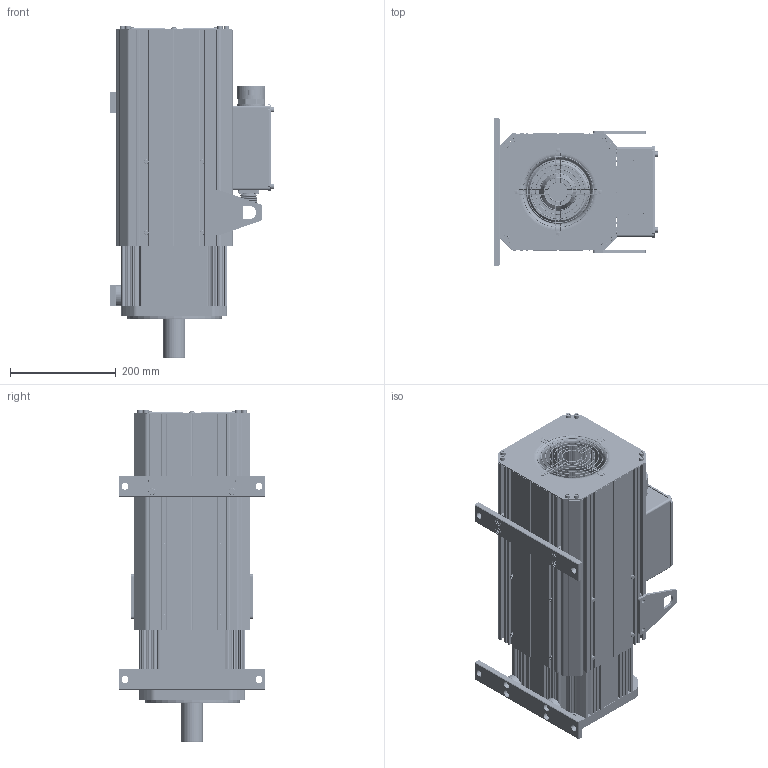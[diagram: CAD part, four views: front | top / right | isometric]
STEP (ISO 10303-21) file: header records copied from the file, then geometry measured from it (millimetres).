
FILE_DESCRIPTION((''),'2;1');
FILE_NAME('K111F15C18P_18KW_ASM','2023-05-23T14:32:40',('admin'),(''),'CREO PARAMETRIC BY PTC INC, 2019080','CREO PARAMETRIC BY PTC INC, 2019080','');
FILE_SCHEMA(('CONFIG_CONTROL_DESIGN'));
Products named in the file (45): QDG_10600-00001; ZZ_12400-04005_18KW; ZC_30400-00001; ZC_30400-01002; ZCZDQ_11200-00001; ZZZJ_80500-04005_18KW_ASM; O-RING_50000-01002; JK_K111_10200-39040; DZZJ_80200-00083_15KW_ASM; FDB_K111_12900-66067; DEGDT_11500-02003; DE_11300-00001; O-RING_50000-02003; YXHQ_20300-00001; O-RING_50000-03004; JXHT_41000-09010; JXHG_41000-00001; JXHGDK_11600-04005; M6X10; XJD_50800-11012; AD13_1; AD42P5_3; MFD_YD28-15P; HKXZ_YD28-15P_40100-00001; PDLD_4X12; JXHZJ_81100-00002_ASM; M5X25; HDG_21200-00001; M8X30; HGB_21600-00001; M4X10; FJ_40000-03004; M4X12; FJFHB_11100-02003; FHW_30500-00001; PDQ_4; MD_4; FJFHBZZ_ASM; QZCJ_10400-15016; DK_12800-32033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
Assembly tree (114 placements, depth 3):
  K111F15C18P_18KW_ASM
    QDG_10600-00001
    ZZZJ_80500-04005_18KW_ASM
      ZZ_12400-04005_18KW
      ZC_30400-00001
      ZC_30400-01002
      ZCZDQ_11200-00001
    O-RING_50000-01002
    DZZJ_80200-00083_15KW_ASM
      JK_K111_10200-39040
    FDB_K111_12900-66067
    DEGDT_11500-02003  x2
    DE_11300-00001  x2
    O-RING_50000-02003
    YXHQ_20300-00001
    O-RING_50000-03004
    JXHZJ_81100-00002_ASM
      JXHT_41000-09010
      JXHG_41000-00001
      JXHGDK_11600-04005  x4
      M6X10  x8
      XJD_50800-11012
      AD13_1
      AD42P5_3
      MFD_YD28-15P
      HKXZ_YD28-15P_40100-00001
      PDLD_4X12  x4
    M5X25  x16
    HDG_21200-00001
    M8X30  x16
    HGB_21600-00001
    M4X10  x4
    FJ_40000-03004
    M4X12  x4
    FJFHBZZ_ASM
      FJFHB_11100-02003
      FHW_30500-00001
      PDQ_4  x4
      MD_4  x4
    M6X10  x8
    ZCJZJ_22300-00007_15KW_ASM
      QZCJ_10400-15016
      DK_12800-32033  x2
      HZCJ_10400-16017
      GDK_11600-09010  x2
      M8X16  x4
Bounding box: 312.35 x 278 x 629 mm (x, y, z)
Volume: 8594861.5 mm3; surface area: 3101011.1 mm2
Topology: 123 solids, 127 shells, 6025 faces, 15826 edges, 10239 vertices
Faces by surface type: plane 2899, cylinder 2331, cone 350, torus 267, bspline 160, sphere 18
Entity records: 164419 total; most frequent: CARTESIAN_POINT 39869, DIRECTION 26411, ORIENTED_EDGE 25900, EDGE_CURVE 12958, AXIS2_PLACEMENT_3D 9354, VERTEX_POINT 8472, VECTOR 7703, LINE 7703
